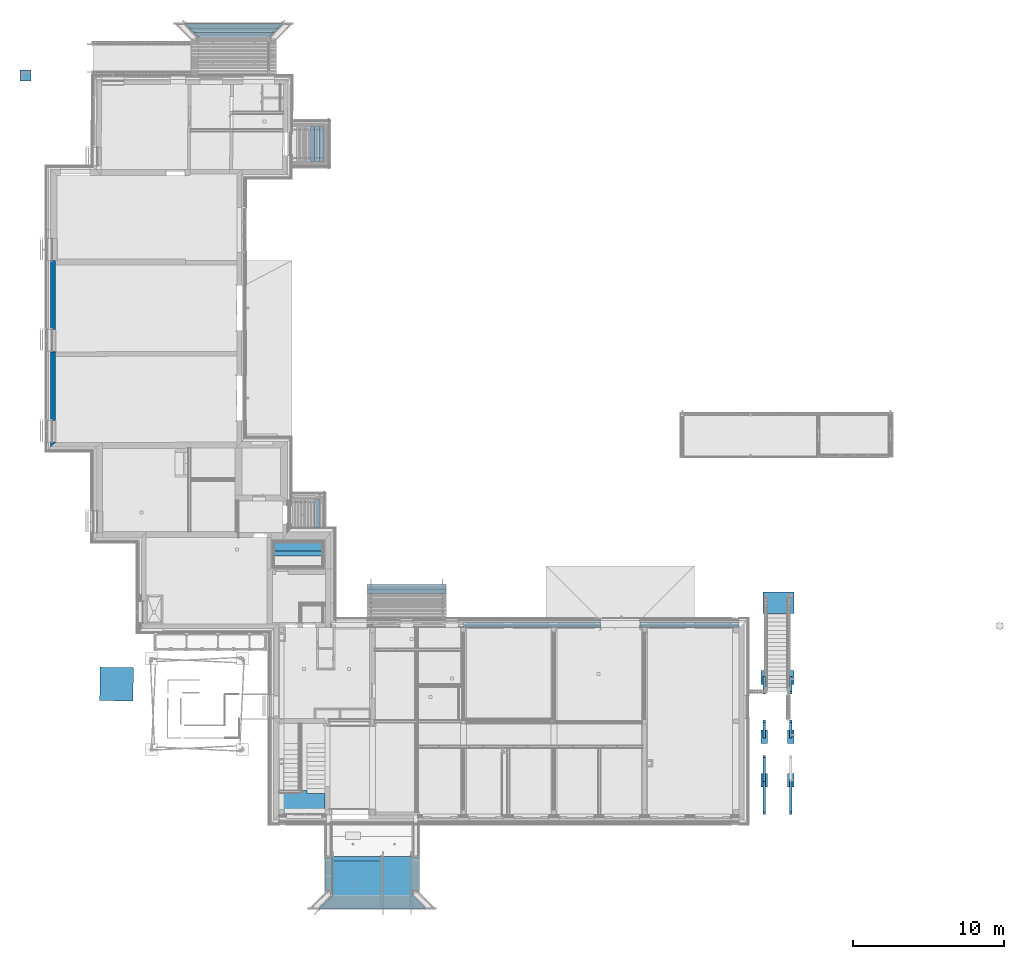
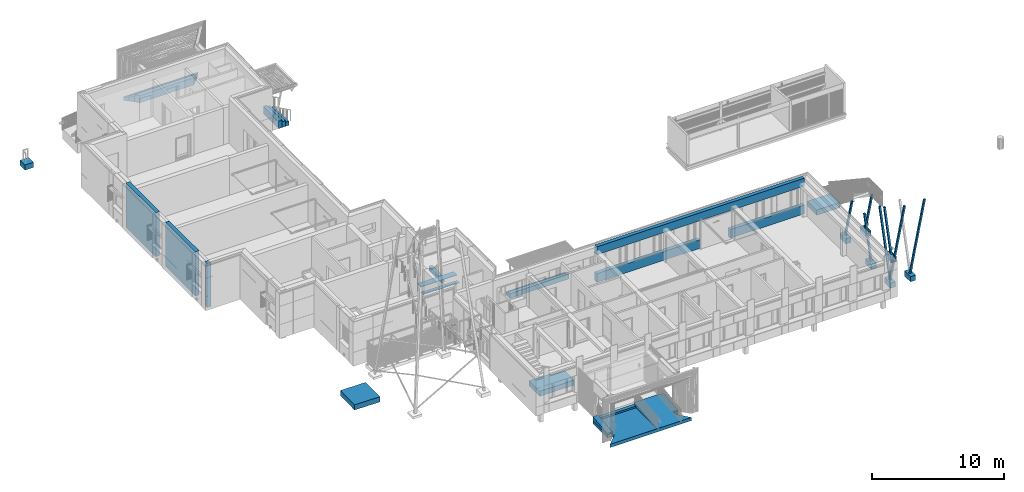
# One storey, part 26 of 418: 33 stairs, 3 walls, 4 openings.
"""IFC2X3 building model written with IfcOpenShell, lengths in millimetres."""

from ifc_helpers import new_model, entity, si_unit, converted_unit, derived_unit, money_unit, direction, frame, origin_with_axes, origin_2d_with_axis, place, context, subcontext, project, spatial, polyline, rectangle, outline, extrude, boolean, clip, halfspace, faceted_brep, material, type_object, element, save


model = new_model("IFC2X3")

# Units and contexts
model_context = context("Model", 3, precision=0.01, world=origin_with_axes(), true_north=direction((0.0, 1.0)))
body_context = subcontext(model_context, "Body", "Model", "MODEL_VIEW")
ifc_project = project(units=[si_unit("LENGTHUNIT", "METRE", prefix="MILLI"), si_unit("AREAUNIT", "SQUARE_METRE"), si_unit("VOLUMEUNIT", "CUBIC_METRE"), converted_unit("PLANEANGLEUNIT", "DEGREE", entity("IfcPlaneAngleMeasure", 0.0174532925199), si_unit("PLANEANGLEUNIT", "RADIAN"), dimensions=[0, 0, 0, 0, 0, 0, 0]), si_unit("SOLIDANGLEUNIT", "STERADIAN"), money_unit("EUR"), converted_unit("TIMEUNIT", "Year", entity("IfcTimeMeasure", 31556926.0), si_unit("TIMEUNIT", "SECOND"), dimensions=[0, 0, 1, 0, 0, 0, 0]), si_unit("MASSUNIT", "GRAM", prefix="KILO"), si_unit("THERMODYNAMICTEMPERATUREUNIT", "DEGREE_CELSIUS"), si_unit("LUMINOUSINTENSITYUNIT", "LUMEN"), si_unit("ENERGYUNIT", "JOULE", prefix="MEGA"), derived_unit("THERMALCONDUCTANCEUNIT", [(si_unit("POWERUNIT", "WATT"), 1), (si_unit("LENGTHUNIT", "METRE"), -1), (si_unit("THERMODYNAMICTEMPERATUREUNIT", "KELVIN"), -1)]), derived_unit("SPECIFICHEATCAPACITYUNIT", [(si_unit("ENERGYUNIT", "JOULE"), 1), (si_unit("MASSUNIT", "GRAM", prefix="KILO"), -1), (si_unit("THERMODYNAMICTEMPERATUREUNIT", "KELVIN"), -1)]), derived_unit("MASSDENSITYUNIT", [(si_unit("MASSUNIT", "GRAM", prefix="KILO"), 1), (si_unit("VOLUMEUNIT", "CUBIC_METRE"), -1)])], contexts=[model_context])

# Site, building, storey
site_placement = place(None, origin_with_axes())
site = spatial("IfcSite", under=ifc_project, at=site_placement, Name="Paldiski mnt 245/1, Tallinn, Harjumaa", CompositionType="COMPLEX")
building_placement = place(site_placement, origin_with_axes())
building = spatial("IfcBuilding", under=site, at=building_placement, Name="RKAS Hoone üldnimetus (kasutust iseloomustav) -> IFC Project Manager -> SOLIBRI", CompositionType="ELEMENT")
storey_placement = place(building_placement, origin_with_axes())
storey = spatial("IfcBuildingStorey", under=building, at=storey_placement, Name="Esimene korrus", CompositionType="ELEMENT", Elevation=0.0)

# Wall, openings
ifc_material_1 = material(Name="Olemasolev silikaltsiitpaneel")
wall_type_1 = type_object("IfcWallType", Name="VS-02_olol 320", PredefinedType="NOTDEFINED")
wall_1_placement = place(storey_placement, frame((-17230.0, -110.0, 0.0), z_axis=(0.0, 0.0, 1.0), x_axis=(-1.0, 0.0, 0.0)))
wall_1 = element("IfcWall", 1, at=wall_1_placement, inside=storey, type_object=wall_type_1, material=ifc_material_1, Name="VS-02", context=body_context, shape_type="CSG", body=[
    boolean("DIFFERENCE", boolean("DIFFERENCE", extrude(outline(polyline([(-350.0, -320.0), (18210.0, -320.0), (18210.0, 0.0), (-350.0, 0.0), (-350.0, -320.0)])), origin_with_axes(), (0.0, 0.0, 1.0), 3300.0), faceted_brep([(9160.0, -5.3245715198e-06, 2552.0), (6510.0, -5.32456732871e-06, 2552.0), (6510.0, -5.32456732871e-06, 2560.0), (9160.0, -5.3245715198e-06, 2560.0), (9160.0, -320.0, 2552.0), (6510.0, -320.0, 2552.0), (6510.0, -320.0, 2560.0), (9160.0, -320.0, 2560.0)], [[[0, 1, 2, 3]], [[4, 5, 1, 0]], [[5, 6, 2, 1]], [[6, 7, 3, 2]], [[7, 4, 0, 3]], [[4, 7, 6, 5]]])), faceted_brep([(0.0, -320.0, 0.0), (0.0, -320.0, 3300.0), (-350.0, -320.0, 3300.0), (-350.0, -320.0, 0.0), (0.0, 0.0, 3300.0), (0.0, 0.0, 0.0), (-350.0, 0.0, 3300.0), (-350.0, 0.0, 0.0)], [[[0, 1, 2, 3]], [[4, 1, 0, 5]], [[1, 4, 6, 2]], [[6, 7, 3, 2]], [[5, 0, 3, 7]], [[4, 5, 7, 6]]])),
])
opening_1_placement = place(wall_1_placement, frame((-17230.0, -110.0, 0.0), z_axis=(0.0, 0.0, 1.0), x_axis=(-1.0, 0.0, 0.0)))
element("IfcOpeningElement", 2, at=opening_1_placement, cuts=wall_1, Name="AVA", ObjectType="OPENING", context=body_context, shape_type="SweptSolid", body=[
    extrude(rectangle(XDim=26650.5505463, YDim=1750.0, at=origin_2d_with_axis()), frame((-30555.2752731, 530.000000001, 1685.0), z_axis=(0.0, 1.0, 0.0), x_axis=(-1.0, 0.0, 0.0)), (0.0, 0.0, -1.0), 960.000000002),
])
opening_2_placement = place(wall_1_placement, frame((-17230.0, -110.0, 0.0), z_axis=(0.0, 0.0, 1.0), x_axis=(-1.0, 0.0, 0.0)))
element("IfcOpeningElement", 3, at=opening_2_placement, cuts=wall_1, Name="AVA", ObjectType="OPENING", context=body_context, shape_type="SweptSolid", body=[
    extrude(rectangle(XDim=2650.0, YDim=2552.0, at=origin_2d_with_axis()), frame((-25065.0, -110.0, 1276.0), z_axis=(0.0, 1.0, 0.0), x_axis=(-1.0, 0.0, 0.0)), (0.0, 0.0, 1.0), 640.000000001),
])

# Wall, opening
ifc_material_2 = material(Name="Olemasolev silikaltsiitplokk")
wall_type_2 = type_object("IfcWallType", Name="Olemasolev silikaltsiitplokk 340", PredefinedType="NOTDEFINED")
wall_2_placement = place(storey_placement, frame((-62390.0, 18096.4054606, 0.0), z_axis=(0.0, 0.0, 1.0), x_axis=(0.0, 1.0, 0.0)))
wall_2 = element("IfcWall", 4, at=wall_2_placement, inside=storey, type_object=wall_type_2, material=ifc_material_2, Name="VS-03", context=body_context, shape_type="CSG", body=[
    boolean("DIFFERENCE", extrude(outline(polyline([(0.0, 0.0), (6032.92560305, 0.0), (6032.92560305, 340.0), (0.0, 340.0), (0.0, 0.0)])), origin_with_axes(), (0.0, 0.0, 1.0), 4090.0), faceted_brep([(6032.92560305, 0.287246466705, 3702.80696097), (6032.92560305, 0.287246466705, 3962.80696097), (6032.92560305, 0.0, 3962.80696097), (6032.92560305, 0.0, 3702.80696097), (0.0, 0.287244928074, 3702.80696097), (0.0, 0.287244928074, 3962.80696097), (0.0, 0.0, 3962.80696097), (0.0, 0.0, 3702.80696097)], [[[0, 1, 2, 3]], [[1, 0, 4, 5]], [[6, 2, 1, 5]], [[7, 3, 2, 6]], [[0, 3, 7, 4]], [[4, 7, 6, 5]]])),
])
opening_3_placement = place(wall_2_placement, frame((-18096.4054606, -62390.0, 0.0), z_axis=(0.0, 0.0, 1.0), x_axis=(0.0, -1.0, 0.0)))
element("IfcOpeningElement", 5, at=opening_3_placement, cuts=wall_2, Name="VS-03", ObjectType="OPENING", context=body_context, shape_type="SweptSolid", body=[
    extrude(rectangle(XDim=1450.0, YDim=4140.0001049, at=origin_2d_with_axis()), frame((-62390.0, 18854.8287244, 2019.99994755), z_axis=(1.0, 0.0, 0.0), x_axis=(0.0, 1.0, 0.0)), (0.0, 0.0, -1.0), 680.0),
])

wall_3_placement = place(storey_placement, frame((-62390.0, 12099.8287244, 0.0), z_axis=(0.0, 0.0, 1.0), x_axis=(0.0, 1.0, 0.0)))
wall_3 = element("IfcWall", 6, at=wall_3_placement, inside=storey, type_object=wall_type_2, material=ifc_material_2, Name="VS-03", context=body_context, shape_type="CSG", body=[
    boolean("DIFFERENCE", extrude(outline(polyline([(-300.0, 0.0), (5996.57673624, 0.0), (5996.57673624, 340.0), (-300.0, 340.0), (-300.0, 0.0)])), origin_with_axes(), (0.0, 0.0, 1.0), 4090.0), faceted_brep([(5996.57673624, 0.287244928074, 3702.80696097), (5996.57673624, 0.287244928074, 3962.80696097), (5996.57673624, 1.27897692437e-10, 3962.80696097), (5996.57673624, 1.27897692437e-10, 3702.80696097), (0.0, 0.287243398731, 3702.80696097), (0.0, 0.287243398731, 3962.80696097), (0.0, 0.0, 3962.80696097), (0.0, 0.0, 3702.80696097)], [[[0, 1, 2, 3]], [[1, 0, 4, 5]], [[6, 2, 1, 5]], [[7, 3, 2, 6]], [[0, 3, 7, 4]], [[7, 6, 5, 4]]])),
])
opening_4_placement = place(wall_3_placement, frame((-12099.8287244, -62390.0, 0.0), z_axis=(0.0, 0.0, 1.0), x_axis=(0.0, -1.0, 0.0)))
element("IfcOpeningElement", 7, at=opening_4_placement, cuts=wall_3, Name="VS-03", ObjectType="OPENING", context=body_context, shape_type="SweptSolid", body=[
    extrude(rectangle(XDim=1450.0, YDim=4090.0, at=origin_2d_with_axis()), frame((-62390.0, 12854.8287244, 2045.0), z_axis=(1.0, 0.0, 0.0), x_axis=(0.0, 1.0, 0.0)), (0.0, 0.0, -1.0), 680.0),
])

# Stairs
ifc_material_3 = material(Name="KON-06_Raudbetoon - Konstruktsioon")
stair_1_placement = place(storey_placement, frame((-36586.0, 2129.80050104, -180.0), z_axis=(0.0, 0.0, 1.0), x_axis=(1.0, 0.0, 0.0)))
element("IfcStair", 8, at=stair_1_placement, inside=storey, material=ifc_material_3, Name="Välistrepp", ShapeType="NOTDEFINED", context=body_context, shape_type="SweptSolid", body=[
    extrude(outline(polyline([(0.0, 0.0), (0.0, 299.884802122), (-5174.55032631, 299.884802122), (-5174.55032631, 0.0), (0.0, 0.0)])), frame((0.0, 0.0, -440.0), z_axis=(0.0, 0.0, 1.0), x_axis=(1.0, 0.0, 0.0)), (0.0, 0.0, 1.0), 440.0),
])
ifc_material_4 = material(Name="KON-00_GENEERILINE - KONSTRUKTSIOON")
stair_2_placement = place(storey_placement, frame((-44590.0, -12510.0840871, 1690.0), z_axis=(0.0, 0.0, 1.0), x_axis=(1.0, 0.0, 0.0)))
element("IfcStair", 9, at=stair_2_placement, inside=storey, material=ifc_material_4, Name="Trepp", ShapeType="NOTDEFINED", context=body_context, shape_type="SweptSolid", body=[
    extrude(outline(polyline([(0.0, 0.0), (0.0, 1444.6864134), (-1180.0, 1444.6864134), (-1180.0, 1619.58323377), (-3010.0, 1619.58323377), (-3010.0, 0.0), (0.0, 0.0)])), frame((0.0, 0.0, -475.369135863), z_axis=(0.0, 0.0, 1.0), x_axis=(1.0, 0.0, 0.0)), (0.0, 0.0, 1.0), 475.369135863),
])
stair_3_placement = place(storey_placement, frame((-13588.000036, -7770.2106711, -560.0), z_axis=(0.0, 0.0, 1.0), x_axis=(1.0, 0.0, 0.0)))
element("IfcStair", 10, at=stair_3_placement, inside=storey, material=ifc_material_3, Name="Vundament", ShapeType="NOTDEFINED", context=body_context, shape_type="SweptSolid", body=[
    extrude(outline(polyline([(0.0, 0.0), (0.0, 900.142635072), (-449.999992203, 900.142635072), (-449.999992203, 0.0), (0.0, 0.0)])), frame((0.0, 0.0, -480.0), z_axis=(0.0, 0.0, 1.0), x_axis=(1.0, 0.0, 0.0)), (0.0, 0.0, 1.0), 480.0),
])
stair_4_placement = place(storey_placement, frame((-37893.5093339, -18705.514136, -370.673864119), z_axis=(0.0, 0.0, 1.0), x_axis=(1.0, 0.0, 0.0)))
element("IfcStair", 11, at=stair_4_placement, inside=storey, material=ifc_material_3, Name="Välistrepp", ShapeType="NOTDEFINED", context=body_context, shape_type="SweptSolid", body=[
    extrude(outline(polyline([(0.0, 0.0), (-897.490666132, 899.814801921), (-897.490666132, 1203.60477902), (-455.490666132, 1203.60477902), (-455.490666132, 3403.42983453), (-897.490641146, 3403.42983453), (-897.490641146, 3475.42401061), (-6225.49074603, 3475.42401061), (-6225.49074603, 3403.43039946), (-6667.49066613, 3403.43039946), (-6667.49066613, 1203.60477902), (-6225.49066613, 1203.60477902), (-6225.49066613, 899.814801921), (-7122.98133226, 1.35003119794e-10), (0.0, 0.0)])), frame((0.0, 0.0, -300.0), z_axis=(0.0, 0.0, 1.0), x_axis=(1.0, 0.0, 0.0)), (0.0, 0.0, 1.0), 300.0),
])
stair_5_placement = place(storey_placement, frame((-45257.525747, 6493.86357598, -180.0), z_axis=(0.0, 0.0, 1.0), x_axis=(1.0, 0.0, 0.0)))
element("IfcStair", 12, at=stair_5_placement, inside=storey, material=ifc_material_3, Name="Välistrepp", ShapeType="NOTDEFINED", context=body_context, shape_type="SweptSolid", body=[
    extrude(outline(polyline([(0.0, 0.0), (299.884802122, 0.0), (299.884802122, 1899.89132935), (0.0, 1899.89132935), (0.0, 0.0)])), frame((0.0, 0.0, -440.0), z_axis=(0.0, 0.0, 1.0), x_axis=(1.0, 0.0, 0.0)), (0.0, 0.0, 1.0), 440.0),
])
stair_6_placement = place(storey_placement, frame((-15338.0000286, -3865.43523386, -560.0), z_axis=(0.0, 0.0, 1.0), x_axis=(1.0, 0.0, 0.0)))
element("IfcStair", 13, at=stair_6_placement, inside=storey, material=ifc_material_3, Name="Vundament", ShapeType="NOTDEFINED", context=body_context, shape_type="SweptSolid", body=[
    extrude(outline(polyline([(0.0, 0.0), (0.0, 900.142635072), (-449.999992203, 900.142635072), (-449.999992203, 0.0), (0.0, 0.0)])), frame((0.0, 0.0, -480.0), z_axis=(0.0, 0.0, 1.0), x_axis=(1.0, 0.0, 0.0)), (0.0, 0.0, 1.0), 480.0),
])
ifc_material_5 = material(Name="ET-05_Teras")
stair_7_placement = place(storey_placement, frame((-15563.0000282, -3415.36871821, -560.0), z_axis=(0.0, 0.0, 1.0), x_axis=(-1.0, 0.0, 0.0)))
element("IfcStair", 14, at=stair_7_placement, inside=storey, material=ifc_material_5, Name="Teraspost", ShapeType="NOTDEFINED", context=body_context, shape_type="Clipping", body=[
    clip(clip(extrude(rectangle(XDim=150.0, YDim=150.0, at=origin_2d_with_axis()), frame((0.0, -10.4025531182, -38.8228567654), z_axis=(0.0, -0.258819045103, -0.965925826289), x_axis=(-1.0, 0.0, 0.0)), (0.0, 0.0, -1.0), 3985.92721402), halfspace(frame((0.0, 0.0, 0.0), z_axis=(0.0, 0.0, 1.0), x_axis=(0.0, -1.0, 0.0)), True)), halfspace(frame((0.0, 0.0, 3772.4643242), z_axis=(0.0, 0.0, -1.0), x_axis=(0.0, 1.0, 0.0)), True)),
])
stair_8_placement = place(storey_placement, frame((-45557.4105491, 30671.790867, -180.0), z_axis=(0.0, 0.0, 1.0), x_axis=(1.0, 0.0, 0.0)))
element("IfcStair", 15, at=stair_8_placement, inside=storey, material=ifc_material_3, Name="Välistrepp", ShapeType="NOTDEFINED", context=body_context, shape_type="SweptSolid", body=[
    extrude(outline(polyline([(0.0, 0.0), (299.884802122, 0.0), (299.884802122, 2319.89132935), (0.0, 2319.89132935), (0.0, 0.0)])), frame((0.0, 0.0, -680.0), z_axis=(0.0, 0.0, 1.0), x_axis=(1.0, 0.0, 0.0)), (0.0, 0.0, 1.0), 680.0),
])
stair_9_placement = place(storey_placement, frame((-40691.9021767, -18705.4794034, -717.539502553), z_axis=(0.0, 0.0, 1.0), x_axis=(1.0, -1.80165043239e-08, 0.0)))
element("IfcStair", 16, at=stair_9_placement, inside=storey, material=ifc_material_3, Name="Pandus", ShapeType="NOTDEFINED", context=body_context, shape_type="CSG", body=[
    boolean("DIFFERENCE", extrude(outline(polyline([(-219.097817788, -1.78127727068e-05), (2798.39284279, 3.68229365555e-05), (1900.90216045, 904.268335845), (1900.91100939, 1209.5729494), (2342.90221068, 1209.57296928), (2342.90211534, 3420.36672477), (1900.90289622, 3420.37253158), (1900.90269587, 3492.72877408), (-219.097864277, 3492.7222059), (-219.097817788, -1.78127727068e-05)])), frame((0.0, 0.0, 0.0), z_axis=(0.0, -0.099503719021, 0.99503719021), x_axis=(1.0, 0.0, 0.0)), (0.0, 0.099503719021, 0.99503719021), 350.0), faceted_brep([(-219.097817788, -1.7724371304e-05, -1.77243708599e-06), (-219.097863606, 3468.65638764, 346.865638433), (1900.90213915, 3468.65638782, 346.865638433), (1900.90289622, 3403.39787329, 340.339787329), (2342.90211534, 3403.3920953, 340.33920953), (2342.90221068, 1203.57008871, 120.357008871), (1900.91100939, 1203.57006893, 120.357006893), (1900.90216045, 899.780624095, 89.9780624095), (2798.39284279, 3.66401913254e-05, 3.66401908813e-06), (-219.097817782, -1.7724371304e-05, 346.865638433), (1900.90216045, 899.780103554, 346.865638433), (1900.90215497, 1203.57008065, 346.865638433), (2342.90215497, 1203.57008861, 346.865638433), (2342.90211534, 3403.39514412, 346.865638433), (1900.90214032, 3403.39513616, 346.865638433), (2798.35821363, 3.66395660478e-05, 346.865638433), (2798.39284279, 3.66401913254e-05, 350.000003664)], [[[0, 1, 2, 3, 4, 5, 6, 7, 8]], [[0, 9, 1]], [[10, 11, 12, 13, 14, 2, 1, 9, 15]], [[2, 14, 3]], [[14, 13, 4, 3]], [[4, 13, 12, 5]], [[12, 11, 6, 5]], [[10, 7, 6, 11]], [[7, 10, 16, 8]], [[9, 0, 8, 16, 15]], [[10, 15, 16]]])),
])
stair_10_placement = place(storey_placement, frame((-47646.870567, 39488.4028165, -340.0), z_axis=(0.0, 0.0, 1.0), x_axis=(1.0, 0.0, 0.0)))
element("IfcStair", 17, at=stair_10_placement, inside=storey, material=ifc_material_3, Name="Välistrepp", ShapeType="NOTDEFINED", context=body_context, shape_type="SweptSolid", body=[
    extrude(outline(polyline([(0.0, 0.0), (-5926.91985395, -1.75890022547e-05), (-5627.8098617, -299.88481539), (-299.015691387, -299.884823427), (0.0, 0.0)])), frame((0.0, 0.0, -520.0), z_axis=(0.0, 0.0, 1.0), x_axis=(1.0, 0.0, 0.0)), (0.0, 0.0, 1.0), 520.0),
])
stair_11_placement = place(storey_placement, frame((-48245.0886442, 38888.6331747, -180.0), z_axis=(0.0, 0.0, 1.0), x_axis=(1.0, 0.0, 0.0)))
element("IfcStair", 18, at=stair_11_placement, inside=storey, material=ifc_material_3, Name="Välistrepp", ShapeType="NOTDEFINED", context=body_context, shape_type="SweptSolid", body=[
    extrude(outline(polyline([(0.0, 0.0), (299.204243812, 299.884828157), (-5029.59175987, 299.884828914), (-4732.6806671, 2.67067505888e-05), (0.0, 0.0)])), frame((0.0, 0.0, -680.0), z_axis=(0.0, 0.0, 1.0), x_axis=(1.0, 0.0, 0.0)), (0.0, 0.0, 1.0), 680.0),
])
stair_12_placement = place(storey_placement, frame((-40910.9999674, -15530.0610608, -180.0), z_axis=(0.0, 0.0, 1.0), x_axis=(1.0, 0.0, 0.0)))
element("IfcStair", 19, at=stair_12_placement, inside=storey, material=ifc_material_3, Name="Välistrepp", ShapeType="NOTDEFINED", context=body_context, shape_type="SweptSolid", body=[
    extrude(outline(polyline([(0.0, 0.0), (-1.37110731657e-05, 300.005791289), (-3208.00011251, 300.005772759), (-3208.00009879, -1.85298905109e-05), (0.0, 0.0)])), frame((0.0, 0.0, -190.673864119), z_axis=(0.0, 0.0, 1.0), x_axis=(1.0, 0.0, 0.0)), (0.0, 0.0, 1.0), 190.673864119),
])
ifc_material_6 = material(Name="SV-02_Puit - Põrand")
stair_13_placement = place(storey_placement, frame((-47933.0, 4604.82872435, 400.0), z_axis=(0.0, 0.0, 1.0), x_axis=(1.0, 0.0, 0.0)))
element("IfcStair", 20, at=stair_13_placement, inside=storey, material=ifc_material_6, Name="Saunalava", ShapeType="NOTDEFINED", context=body_context, shape_type="SweptSolid", body=[
    extrude(outline(polyline([(0.0, 0.0), (3165.44954137, 0.0), (3165.44954137, 350.0), (0.0, 350.0), (0.0, 0.0)])), frame((0.0, 0.0, -30.0), z_axis=(0.0, 0.0, 1.0), x_axis=(1.0, 0.0, 0.0)), (0.0, 0.0, 1.0), 30.0),
])
stair_14_placement = place(storey_placement, frame((-47932.9864099, 4954.82872435, 900.0), z_axis=(0.0, 0.0, 1.0), x_axis=(1.0, 0.0, 0.0)))
element("IfcStair", 21, at=stair_14_placement, inside=storey, material=ifc_material_6, Name="Saunalava", ShapeType="NOTDEFINED", context=body_context, shape_type="SweptSolid", body=[
    extrude(outline(polyline([(0.0, 0.0), (3165.43595127, 0.0), (3165.43595127, 538.171275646), (0.0, 538.171275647), (0.0, 0.0)])), frame((0.0, 0.0, -30.0), z_axis=(0.0, 0.0, 1.0), x_axis=(1.0, 0.0, 0.0)), (0.0, 0.0, 1.0), 30.0),
])
for number, where, z_axis, x_axis in (
    (22, (-13588.000036, -3865.43523386, -560.0), (0.0, 0.0, 1.0), (1.0, 0.0, 0.0)),
    (23, (-13588.000036, -10651.122755, -560.0), (0.0, 0.0, 1.0), (1.0, 0.0, 0.0)),
):
    element("IfcStair", number, at=place(storey_placement, frame(where, z_axis=z_axis, x_axis=x_axis)), inside=storey, material=ifc_material_3, Name="Vundament", ShapeType="NOTDEFINED", context=body_context, shape_type="SweptSolid", body=[
        extrude(outline(polyline([(0.0, 0.0), (0.0, 900.142635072), (-449.999992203, 900.142635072), (-449.999992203, 0.0), (0.0, 0.0)])), frame((0.0, 0.0, -480.0), z_axis=(0.0, 0.0, 1.0), x_axis=(1.0, 0.0, 0.0)), (0.0, 0.0, 1.0), 480.0),
    ])
stair_15_placement = place(storey_placement, frame((-45016.7015769, -18708.8608346, -666.09143984), z_axis=(0.0, 0.0, 1.0), x_axis=(1.0, 0.0, 0.0)))
element("IfcStair", 24, at=stair_15_placement, inside=storey, material=ifc_material_3, Name="Pandus", ShapeType="NOTDEFINED", context=body_context, shape_type="CSG", body=[
    boolean("DIFFERENCE", extrude(outline(polyline([(4105.7016038, 3.38168136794), (4105.7016095, 3178.91929796), (897.7015535, 3178.91936723), (897.701548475, 903.195459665), (0.0, 3.38168136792), (4105.7016038, 3.38168136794)])), frame((0.0, 0.0, 0.0), z_axis=(0.0, -0.00867246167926, 0.999962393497), x_axis=(1.0, 0.0, 0.0)), (0.0, 0.00867246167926, 0.999962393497), 298.522383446), faceted_brep([(897.701553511, 3178.79981915, 295.417575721), (4105.70160946, 3178.79974992, 295.417575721), (4105.7016095, 3178.79974992, 27.569055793), (897.7015535, 3178.79981919, 27.5690563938), (4105.7016038, 3.38155419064, 295.417575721), (897.701576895, 1206.95147763, 295.417575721), (897.701576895, 903.161500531, 295.417575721), (0.245676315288, 3.38155419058, 295.417575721), (4105.7016038, 3.38155419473, 0.029327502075), (0.245675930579, 3.38155380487, 0.0293277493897), (897.701576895, 903.161500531, 7.83292826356)], [[[0, 1, 2, 3]], [[4, 1, 0, 5, 6, 7]], [[1, 4, 8, 2]], [[9, 10, 3, 2, 8]], [[5, 0, 3, 10, 6]], [[6, 10, 9, 7]], [[7, 9, 8, 4]]])),
])
stair_16_placement = place(storey_placement, frame((-44957.6409449, 30671.790867, -500.0), z_axis=(0.0, 0.0, 1.0), x_axis=(1.0, 0.0, 0.0)))
element("IfcStair", 25, at=stair_16_placement, inside=storey, material=ifc_material_3, Name="Välistrepp", ShapeType="NOTDEFINED", context=body_context, shape_type="SweptSolid", body=[
    extrude(outline(polyline([(0.0, 0.0), (299.884802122, 0.0), (299.884802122, 2319.89132935), (0.0, 2319.89132935), (0.0, 0.0)])), frame((0.0, 0.0, -360.0), z_axis=(0.0, 0.0, 1.0), x_axis=(1.0, 0.0, 0.0)), (0.0, 0.0, 1.0), 360.0),
])
stair_17_placement = place(storey_placement, frame((-44114.0000211, -18704.5152656, -718.755240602), z_axis=(0.0, 0.0, 1.0), x_axis=(1.0, 0.0, 0.0)))
element("IfcStair", 26, at=stair_17_placement, inside=storey, material=ifc_material_3, Name="Trepp", ShapeType="NOTDEFINED", context=body_context, shape_type="CSG", body=[
    boolean("DIFFERENCE", extrude(outline(polyline([(-5.00000575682, 1209.60782475), (-4.99999539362, 3420.40672918), (-447.00000963, 3420.40087954), (-447.000009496, 1209.60783184), (-5.00000575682, 1209.60782475)])), frame((0.0, 0.0, 0.0), z_axis=(0.0, -0.099503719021, 0.99503719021), x_axis=(1.0, 0.0, 0.0)), (0.0, 0.099503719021, 0.99503719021), 350.0), faceted_brep([(-5.00005884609, 3402.43152903, 348.081376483), (-5.00000596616, 1203.60477105, 348.081376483), (-5.00000575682, 1203.6047712, 120.36047712), (-5.00005884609, 3402.43152903, 340.243152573), (-446.999978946, 3402.43152903, 348.081376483), (-446.999978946, 1203.60477823, 348.081376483), (-447.000009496, 1203.60477825, 120.360477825), (-446.999978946, 3402.43152903, 340.243152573)], [[[0, 1, 2, 3]], [[1, 0, 4, 5]], [[1, 5, 6, 2]], [[7, 3, 2, 6]], [[0, 3, 7, 4]], [[4, 7, 6, 5]]])),
])
stair_18_placement = place(storey_placement, frame((-13813.0000282, -7320.13935357, -560.0), z_axis=(0.0, 0.0, 1.0), x_axis=(1.0, 0.0, 0.0)))
element("IfcStair", 27, at=stair_18_placement, inside=storey, material=ifc_material_5, Name="Teraspost", ShapeType="NOTDEFINED", context=body_context, shape_type="Clipping", body=[
    clip(clip(extrude(rectangle(XDim=150.0, YDim=150.0, at=origin_2d_with_axis()), frame((0.0, -10.4025531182, -38.8228567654), z_axis=(0.0, 0.258819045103, 0.965925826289), x_axis=(1.0, 0.0, 0.0)), (0.0, 0.0, 1.0), 3985.58749136), halfspace(frame((0.0, 0.0, 0.0), z_axis=(0.0, 0.0, 1.0), x_axis=(0.0, -1.0, 0.0)), True)), halfspace(frame((0.0, 0.0, 3772.13617731), z_axis=(0.0, 0.0, -1.0), x_axis=(0.0, 1.0, 0.0)), True)),
])
stair_19_placement = place(storey_placement, frame((-13813.0000282, -10201.0515131, -560.0), z_axis=(0.0, 0.0, 1.0), x_axis=(-1.0, 0.0, 0.0)))
element("IfcStair", 28, at=stair_19_placement, inside=storey, material=ifc_material_5, Name="Teraspost", ShapeType="NOTDEFINED", context=body_context, shape_type="Clipping", body=[
    clip(clip(extrude(rectangle(XDim=150.0, YDim=150.0, at=origin_2d_with_axis()), frame((0.0, -10.4025531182, -38.8228567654), z_axis=(0.0, -0.258819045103, -0.965925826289), x_axis=(-1.0, 0.0, 0.0)), (0.0, 0.0, -1.0), 8541.14241835), halfspace(frame((0.0, 0.0, 0.0), z_axis=(0.0, 0.0, 1.0), x_axis=(0.0, -1.0, 0.0)), True)), halfspace(frame((0.0, 0.0, 8172.46433436), z_axis=(0.0, 0.0, -1.0), x_axis=(0.0, 1.0, 0.0)), True)),
])
stair_20_placement = place(storey_placement, frame((-13813.0000282, -3415.36391633, -560.0), z_axis=(0.0, 0.0, 1.0), x_axis=(-1.0, 0.0, 0.0)))
element("IfcStair", 29, at=stair_20_placement, inside=storey, material=ifc_material_5, Name="Teraspost", ShapeType="NOTDEFINED", context=body_context, shape_type="Clipping", body=[
    clip(clip(extrude(rectangle(XDim=150.0, YDim=150.0, at=origin_2d_with_axis()), frame((0.0, -10.4025531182, -38.8228567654), z_axis=(0.0, -0.258819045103, -0.965925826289), x_axis=(-1.0, 0.0, 0.0)), (0.0, 0.0, -1.0), 3985.92721402), halfspace(frame((0.0, 0.0, 0.0), z_axis=(0.0, 0.0, 1.0), x_axis=(0.0, -1.0, 0.0)), True)), halfspace(frame((0.0, 0.0, 3772.4643242), z_axis=(0.0, 0.0, -1.0), x_axis=(0.0, 1.0, 0.0)), True)),
])
stair_21_placement = place(storey_placement, frame((-13588.000036, 827.918391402, -800.0), z_axis=(0.0, 0.0, 1.0), x_axis=(1.0, 0.0, 0.0)))
element("IfcStair", 30, at=stair_21_placement, inside=storey, material=ifc_material_3, Name="Vundament", ShapeType="NOTDEFINED", context=body_context, shape_type="SweptSolid", body=[
    extrude(outline(polyline([(0.0, 0.0), (0.0, 1391.88210964), (-2049.99998481, 1391.88210964), (-2049.99998481, 0.0), (0.0, 0.0)])), frame((0.0, 0.0, -480.0), z_axis=(0.0, 0.0, 1.0), x_axis=(1.0, 0.0, 0.0)), (0.0, 0.0, 1.0), 480.0),
])
stair_22_placement = place(storey_placement, frame((-15338.000036, -10651.122755, -560.0), z_axis=(0.0, 0.0, 1.0), x_axis=(1.0, 0.0, 0.0)))
element("IfcStair", 31, at=stair_22_placement, inside=storey, material=ifc_material_3, Name="Vundament", ShapeType="NOTDEFINED", context=body_context, shape_type="SweptSolid", body=[
    extrude(outline(polyline([(0.0, 0.0), (0.0, 900.142635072), (-449.999992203, 900.142635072), (-449.999992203, 0.0), (0.0, 0.0)])), frame((0.0, 0.0, -480.0), z_axis=(0.0, 0.0, 1.0), x_axis=(1.0, 0.0, 0.0)), (0.0, 0.0, 1.0), 480.0),
])
stair_23_placement = place(storey_placement, frame((-15563.0000282, -10201.0515131, -560.0), z_axis=(0.0, 0.0, 1.0), x_axis=(1.0, 0.0, 0.0)))
element("IfcStair", 32, at=stair_23_placement, inside=storey, material=ifc_material_5, Name="Teraspost", ShapeType="NOTDEFINED", context=body_context, shape_type="CSG", body=[
    boolean("DIFFERENCE", boolean("DIFFERENCE", extrude(rectangle(XDim=150.0, YDim=150.0, at=origin_2d_with_axis()), frame((0.0, -5.20645293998, -19.4307468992), z_axis=(0.0, 0.258819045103, 0.965925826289), x_axis=(1.0, 0.0, 0.0)), (0.0, 0.0, 1.0), 6086.82714668), faceted_brep([(-75.0, 77.6457135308, 0.0), (75.0, 77.6457135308, 0.0), (75.0, 67.2379840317, -38.8421752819), (-75.0, 67.2379840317, -38.8421752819), (75.0, -77.6457135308, 0.0), (-75.0, -77.6457135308, 0.0), (75.0, -77.6508899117, -0.019318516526), (-75.0, -77.6508899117, -0.019318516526)], [[[0, 1, 2, 3]], [[4, 1, 0, 5]], [[1, 4, 6, 2]], [[2, 6, 7, 3]], [[5, 0, 3, 7]], [[4, 5, 7, 6]]])), faceted_brep([(75.0, 1497.73072351, 5879.3849041), (75.0, 1622.5043356, 5765.49086808), (75.0, 1642.62477384, 5840.58136585), (75.0, 1497.7358999, 5879.40422262), (-75.0, 1622.5043356, 5765.49086808), (-75.0, 1497.73072351, 5879.3849041), (-75.0, 1642.62477384, 5840.58136585), (-75.0, 1497.7358999, 5879.40422262)], [[[0, 1, 2, 3]], [[4, 1, 0, 5]], [[1, 4, 6, 2]], [[7, 3, 2, 6]], [[5, 0, 3, 7]], [[4, 5, 7, 6]]])),
])
stair_24_placement = place(storey_placement, frame((-15563.0000282, -10201.0515131, -560.0), z_axis=(0.0, 0.0, 1.0), x_axis=(-1.0, 0.0, 0.0)))
element("IfcStair", 33, at=stair_24_placement, inside=storey, material=ifc_material_5, Name="Teraspost", ShapeType="NOTDEFINED", context=body_context, shape_type="Clipping", body=[
    clip(clip(extrude(rectangle(XDim=150.0, YDim=150.0, at=origin_2d_with_axis()), frame((0.0, -10.4025531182, -38.8228567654), z_axis=(0.0, -0.258819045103, -0.965925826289), x_axis=(-1.0, 0.0, 0.0)), (0.0, 0.0, -1.0), 8541.14241835), halfspace(frame((0.0, 0.0, 0.0), z_axis=(0.0, 0.0, 1.0), x_axis=(0.0, -1.0, 0.0)), True)), halfspace(frame((0.0, 0.0, 8172.46433436), z_axis=(0.0, 0.0, -1.0), x_axis=(0.0, 1.0, 0.0)), True)),
])
stair_25_placement = place(storey_placement, frame((-15338.000036, -7770.2106711, -560.0), z_axis=(0.0, 0.0, 1.0), x_axis=(1.0, 0.0, 0.0)))
element("IfcStair", 34, at=stair_25_placement, inside=storey, material=ifc_material_3, Name="Vundament", ShapeType="NOTDEFINED", context=body_context, shape_type="SweptSolid", body=[
    extrude(outline(polyline([(0.0, 0.0), (0.0, 900.142635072), (-449.999992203, 900.142635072), (-449.999992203, 0.0), (0.0, 0.0)])), frame((0.0, 0.0, -480.0), z_axis=(0.0, 0.0, 1.0), x_axis=(1.0, 0.0, 0.0)), (0.0, 0.0, 1.0), 480.0),
])
stair_26_placement = place(storey_placement, frame((-15563.0000282, -7320.13935357, -560.0), z_axis=(0.0, 0.0, 1.0), x_axis=(1.0, 0.0, 0.0)))
element("IfcStair", 35, at=stair_26_placement, inside=storey, material=ifc_material_5, Name="Teraspost", ShapeType="NOTDEFINED", context=body_context, shape_type="Clipping", body=[
    clip(clip(extrude(rectangle(XDim=150.0, YDim=150.0, at=origin_2d_with_axis()), frame((0.0, -10.4025531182, -38.8228567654), z_axis=(0.0, 0.258819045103, 0.965925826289), x_axis=(1.0, 0.0, 0.0)), (0.0, 0.0, 1.0), 3985.58749136), halfspace(frame((0.0, 0.0, 0.0), z_axis=(0.0, 0.0, 1.0), x_axis=(0.0, -1.0, 0.0)), True)), halfspace(frame((0.0, 0.0, 3772.13617731), z_axis=(0.0, 0.0, -1.0), x_axis=(0.0, 1.0, 0.0)), True)),
])
stair_27_placement = place(storey_placement, frame((-47646.8686251, 39488.40284, -500.0), z_axis=(0.0, 0.0, 1.0), x_axis=(1.0, 0.0, 0.0)))
element("IfcStair", 36, at=stair_27_placement, inside=storey, material=ifc_material_3, Name="Välistrepp", ShapeType="NOTDEFINED", context=body_context, shape_type="SweptSolid", body=[
    extrude(outline(polyline([(0.0, 0.0), (299.015716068, 299.884767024), (-6228.39135147, 299.884767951), (-5929.28134697, -9.86040760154e-06), (0.0, 0.0)])), frame((0.0, 0.0, -360.0), z_axis=(0.0, 0.0, 1.0), x_axis=(1.0, 0.0, 0.0)), (0.0, 0.0, 1.0), 360.0),
])
stair_28_placement = place(storey_placement, frame((-45257.525747, 30671.790867, -340.0), z_axis=(0.0, 0.0, 1.0), x_axis=(1.0, 0.0, 0.0)))
element("IfcStair", 37, at=stair_28_placement, inside=storey, material=ifc_material_3, Name="Välistrepp", ShapeType="NOTDEFINED", context=body_context, shape_type="SweptSolid", body=[
    extrude(outline(polyline([(0.0, 0.0), (299.884802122, 0.0), (299.884802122, 2319.89132935), (0.0, 2319.89132935), (0.0, 0.0)])), frame((0.0, 0.0, -520.0), z_axis=(0.0, 0.0, 1.0), x_axis=(1.0, 0.0, 0.0)), (0.0, 0.0, 1.0), 520.0),
])
stair_29_placement = place(storey_placement, frame((-36586.0, 2429.68530316, -340.0), z_axis=(0.0, 0.0, 1.0), x_axis=(1.0, 0.0, 0.0)))
element("IfcStair", 38, at=stair_29_placement, inside=storey, material=ifc_material_3, Name="Välistrepp", ShapeType="NOTDEFINED", context=body_context, shape_type="SweptSolid", body=[
    extrude(outline(polyline([(0.0, 0.0), (0.0, 299.884802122), (-5174.55032631, 299.884802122), (-5174.55032631, 0.0), (0.0, 0.0)])), frame((0.0, 0.0, -280.0), z_axis=(0.0, 0.0, 1.0), x_axis=(1.0, 0.0, 0.0)), (0.0, 0.0, 1.0), 280.0),
])
stair_30_placement = place(storey_placement, frame((-57266.4365685, -4971.45503107, 0.0), z_axis=(0.0, 0.0, 1.0), x_axis=(1.0, 0.0, 0.0)))
element("IfcStair", 39, at=stair_30_placement, inside=storey, material=ifc_material_3, Name="Vundament", ShapeType="NOTDEFINED", context=body_context, shape_type="SweptSolid", body=[
    extrude(outline(polyline([(0.0, 0.0), (34.833362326, 2199.72421788), (-2164.89085557, 2234.5575802), (-2199.72421789, 34.8333623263), (0.0, 0.0)])), frame((0.0, 0.0, -480.0), z_axis=(0.0, 0.0, 1.0), x_axis=(1.0, 0.0, 0.0)), (0.0, 0.0, 1.0), 480.0),
])
stair_31_placement = place(storey_placement, frame((-64730.0000098, 35990.0000002, -750.0), z_axis=(0.0, 0.0, 1.0), x_axis=(1.0, 0.0, 0.0)))
element("IfcStair", 40, at=stair_31_placement, inside=storey, material=ifc_material_3, Name="Vundament", ShapeType="NOTDEFINED", context=body_context, shape_type="SweptSolid", body=[
    extrude(outline(polyline([(0.0, 0.0), (740.000008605, 0.0), (740.000008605, 739.999991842), (0.0, 739.999991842), (0.0, 0.0)])), frame((0.0, 0.0, -480.0), z_axis=(0.0, 0.0, 1.0), x_axis=(1.0, 0.0, 0.0)), (0.0, 0.0, 1.0), 480.0),
])

save(model, "model.ifc")
